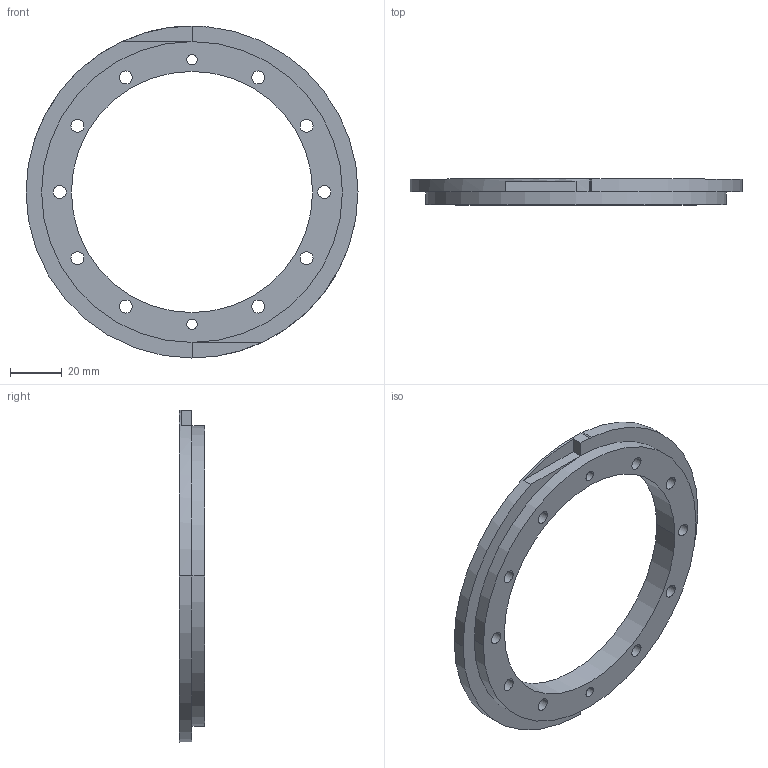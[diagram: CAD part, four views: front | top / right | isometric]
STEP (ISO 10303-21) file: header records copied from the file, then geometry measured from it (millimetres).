
FILE_DESCRIPTION (( 'STEP AP214' ), '1' );
FILE_NAME ('IRB5500_12_T00F71B41V31H51_rev1_8.step', '2006-09-01T12:05:22', ( 'Jonas Eriksson' ), ( '' ), 'SwSTEP 2.0', 'SolidWorks 2004334', '' );
FILE_SCHEMA (( 'AUTOMOTIVE_DESIGN' ));
Length unit declared in the file: millimetre
Products named in the file (1): IRB5500_12_T00F71B41V31H51_rev1_8
Bounding box: 128 x 9.89 x 128 mm (x, y, z)
Volume: 45541.3 mm3; surface area: 20233.2 mm2
Topology: 1 solids, 1 shells, 43 faces, 119 edges, 78 vertices
Faces by surface type: cylinder 31, plane 12
Entity records: 1957 total; most frequent: DIRECTION 275, CARTESIAN_POINT 241, ORIENTED_EDGE 238, EDGE_CURVE 119, AXIS2_PLACEMENT_3D 112, VERTEX_POINT 78, EDGE_LOOP 69, CIRCLE 68
